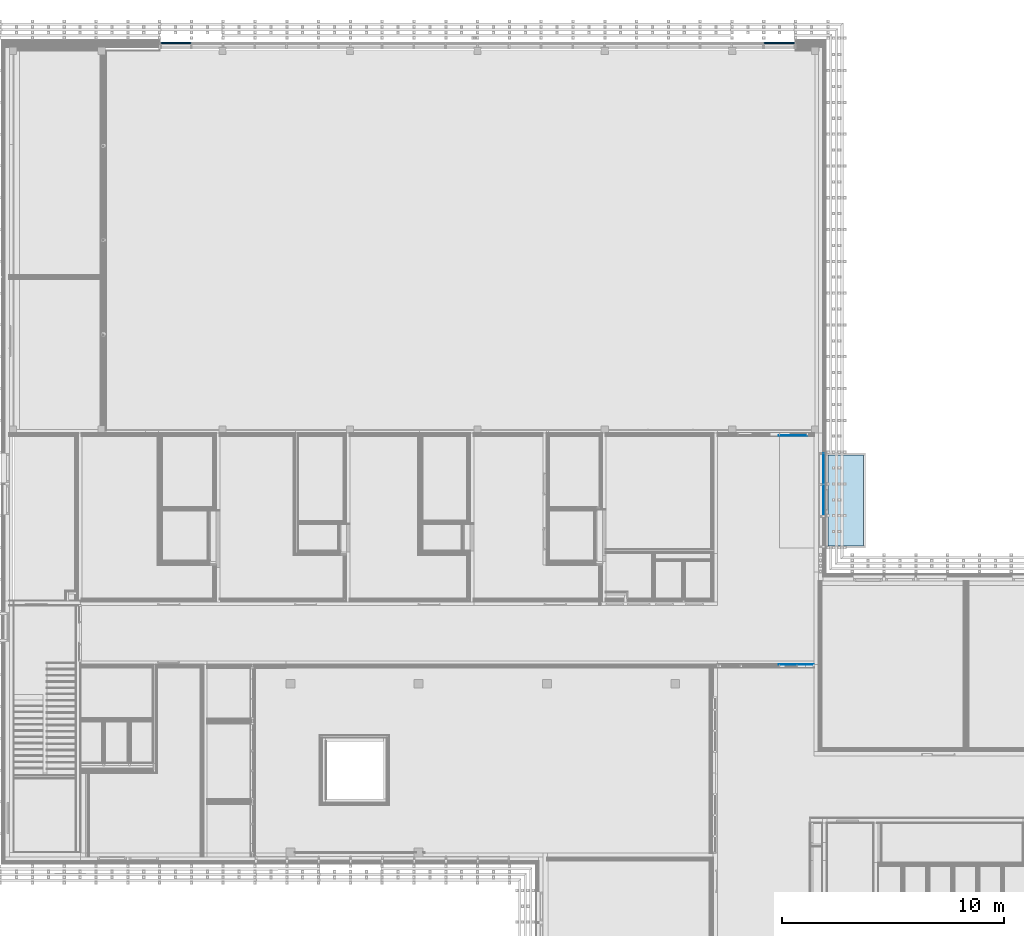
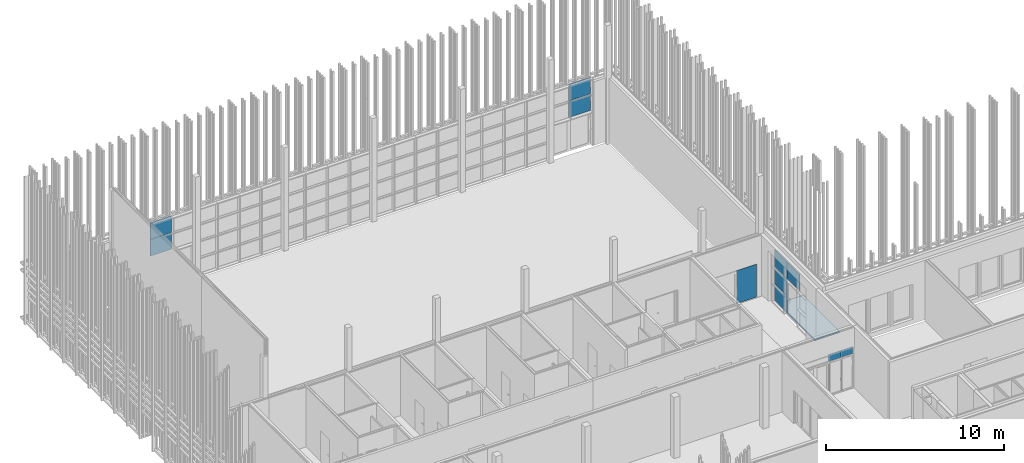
# One storey, part 108 of 260: 11 plates, 1 slab, 4 elements without a shape of their own.
"""IFC2X3 building model written with IfcOpenShell, lengths in millimetres."""

import ifcopenshell
import ifcopenshell.guid

model = None  # the IFC model being written
_history = None  # IfcOwnerHistory: only IFC2X3 demands one
_inside = {}  # id of a spatial element -> (the spatial element, [elements in it])
_under = {}  # id of a project, library or spatial element -> (it, [spatial elements below it])
_declared = {}  # id of a project -> (the project, [libraries it declares])
_typed = {}  # id of a type object -> (the type object, [elements of that type])
_made_of = {}  # id of a material, layer set ... -> (it, [elements and type objects made of it])


def new_model(schema):
    """Start an empty IFC model of exactly this schema.

    Asked for "IFC4X3", IfcOpenShell would pick the latest addendum, in which some entities
    have other attributes; the version numbers below select the first issue.
    IFC2X3 requires an IfcOwnerHistory on every rooted entity: one is made here for all.
    """
    global model, _history
    if schema == "IFC4X3":
        model = ifcopenshell.file(schema_version=(4, 3, 0, 0))
    else:
        model = ifcopenshell.file(schema=schema)
    _inside.clear()
    _under.clear()
    _declared.clear()
    _typed.clear()
    _made_of.clear()
    _history = None
    if model.schema == "IFC2X3":
        org = make("IfcOrganization", Name="unknown")
        user = make(
            "IfcPersonAndOrganization",
            ThePerson=make("IfcPerson", FamilyName="unknown"),
            TheOrganization=org,
        )
        app = make(
            "IfcApplication",
            ApplicationDeveloper=org,
            Version="unknown",
            ApplicationFullName="unknown",
            ApplicationIdentifier="unknown",
        )
        _history = make(
            "IfcOwnerHistory",
            OwningUser=user,
            OwningApplication=app,
            ChangeAction="ADDED",
            CreationDate=0,
        )
    return model


def make(cls, **values):
    """One entity of the class cls with the attributes given. An attribute that is None is left unset."""
    return model.create_entity(
        cls, **{name: value for name, value in values.items() if value is not None}
    )


def entity(cls, *values):
    """Any entity or typed value of the class cls, its attributes in the order of the schema. None: left unset."""
    e = model.create_entity(cls)
    for i, value in enumerate(values):
        if value is not None:
            e[i] = value
    return e


def rooted(cls, **values):
    """An entity with a GlobalId (a new one), such as an element, a storey or a relation."""
    return make(cls, GlobalId=ifcopenshell.guid.new(), OwnerHistory=_history, **values)


def si_unit(unit_type, name, prefix=None):
    """IfcSIUnit, for example si_unit("LENGTHUNIT", "METRE", prefix="MILLI")."""
    return make("IfcSIUnit", UnitType=unit_type, Prefix=prefix, Name=name)


def converted_unit(unit_type, name, factor, base, dimensions=None, offset=None):
    """IfcConversionBasedUnit, such as the inch: factor (a typed value) times the base unit."""
    return make(
        "IfcConversionBasedUnit"
        if offset is None
        else "IfcConversionBasedUnitWithOffset",
        ConversionOffset=offset,
        Dimensions=None
        if dimensions is None
        else entity("IfcDimensionalExponents", *dimensions),
        UnitType=unit_type,
        Name=name,
        ConversionFactor=make(
            "IfcMeasureWithUnit", ValueComponent=factor, UnitComponent=base
        ),
    )


def derived_unit(unit_type, elements):
    """IfcDerivedUnit: a product of units, each with its exponent."""
    return make(
        "IfcDerivedUnit",
        Elements=[
            make("IfcDerivedUnitElement", Unit=unit, Exponent=power)
            for unit, power in elements
        ],
        UnitType=unit_type,
    )


def money_unit(currency):
    """IfcMonetaryUnit."""
    return make("IfcMonetaryUnit", Currency=currency)


def assignment(units):
    """IfcUnitAssignment: the units of a project."""
    return None if units is None else make("IfcUnitAssignment", Units=units)


def point(xyz):
    """IfcCartesianPoint."""
    return None if xyz is None else make("IfcCartesianPoint", Coordinates=xyz)


def direction(xyz):
    """IfcDirection."""
    return None if xyz is None else make("IfcDirection", DirectionRatios=xyz)


def frame(location, z_axis=None, x_axis=None):
    """IfcAxis2Placement3D, a coordinate frame: its origin and axes. An axis left out is left unset."""
    return make(
        "IfcAxis2Placement3D",
        Location=point(location),
        Axis=direction(z_axis),
        RefDirection=direction(x_axis),
    )


def origin_with_axes():
    """The frame at (0, 0, 0) with the z axis (0, 0, 1) and the x axis (1, 0, 0) written out."""
    return frame((0.0, 0.0, 0.0), z_axis=(0.0, 0.0, 1.0), x_axis=(1.0, 0.0, 0.0))


def place(relative_to, where):
    """IfcLocalPlacement: puts the frame where relative to a parent placement (None: the world)."""
    return make(
        "IfcLocalPlacement", PlacementRelTo=relative_to, RelativePlacement=where
    )


def context(
    kind, dimensions, precision=None, world=None, true_north=None, identifier=None
):
    """IfcGeometricRepresentationContext, for example the 3D "Model" context."""
    return make(
        "IfcGeometricRepresentationContext",
        ContextIdentifier=identifier,
        ContextType=kind,
        CoordinateSpaceDimension=dimensions,
        Precision=precision,
        WorldCoordinateSystem=world,
        TrueNorth=true_north,
    )


def subcontext(parent, identifier, kind, view, scale=None):
    """IfcGeometricRepresentationSubContext, for example "Body" below "Model"."""
    return make(
        "IfcGeometricRepresentationSubContext",
        ContextIdentifier=identifier,
        ContextType=kind,
        ParentContext=parent,
        TargetScale=scale,
        TargetView=view,
    )


def project(units=None, contexts=None):
    """IfcProject with its units and contexts."""
    return rooted(
        "IfcProject",
        Name="project",
        RepresentationContexts=contexts,
        UnitsInContext=assignment(units),
    )


def spatial(cls, under=None, at=None, **own):
    """A site, building, storey or space (cls), placed at a placement, below another one or the project."""
    s = rooted(cls, ObjectPlacement=at, **own)
    if under is not None:
        _under.setdefault(under.id(), (under, []))[1].append(s)
    return s


def faces_of(points, faces, orient=None, outer=None):
    """IfcFace entities. A face is a list of loops; a loop is a list of indices into points, from 0.

    orient and outer hold one flag for each loop. By default every Orientation is true, the
    first loop of a face is its IfcFaceOuterBound and the others are IfcFaceBound.
    """
    made = []
    for i, loops in enumerate(faces):
        bounds = []
        for j, loop in enumerate(loops):
            is_outer = j == 0 if outer is None else outer[i][j]
            bounds.append(
                make(
                    "IfcFaceOuterBound" if is_outer else "IfcFaceBound",
                    Bound=make("IfcPolyLoop", Polygon=[points[k] for k in loop]),
                    Orientation=True if orient is None else orient[i][j],
                )
            )
        made.append(make("IfcFace", Bounds=bounds))
    return made


def faceted_brep(points, faces, orient=None, outer=None, voids=None):
    """IfcFacetedBrep: a solid bounded by flat faces; with voids (closed shells), ...WithVoids."""
    shared = [point(p) for p in points]
    hull = make("IfcClosedShell", CfsFaces=faces_of(shared, faces, orient, outer))
    if voids is None:
        return make("IfcFacetedBrep", Outer=hull)
    return make(
        "IfcFacetedBrepWithVoids",
        Outer=hull,
        Voids=[
            make(cls, CfsFaces=faces_of(shared, fs, o, b)) for cls, fs, o, b in voids
        ],
    )


def shape(context_of_items, identifier, shape_type, items):
    """IfcShapeRepresentation: the items that make up one representation, for example the "Body"."""
    return make(
        "IfcShapeRepresentation",
        ContextOfItems=context_of_items,
        RepresentationIdentifier=identifier,
        RepresentationType=shape_type,
        Items=items,
    )


def material(Name=None, Category=None):
    """IfcMaterial."""
    return make("IfcMaterial", Name=Name, Category=Category)


def made_of(thing, what):
    """Note that an element or type object is made of a material, layer set ...; save() writes the relation."""
    if what is not None:
        _made_of.setdefault(what.id(), (what, []))[1].append(thing)
    return thing


def type_object(cls, material=None, **own):
    """A type object (cls), such as IfcWallType, which elements share."""
    return made_of(rooted(cls, **own), material)


def element(
    cls,
    number,
    at=None,
    inside=None,
    cuts=None,
    type_object=None,
    material=None,
    context=None,
    identifier="Body",
    shape_type=None,
    held_by="IfcProductDefinitionShape",
    body=None,
    shapes=None,
    **own,
):
    """One element of the class cls, such as IfcWall. Its Tag is "e" and its number.

    at: its placement. inside: the storey or other place that contains it. cuts: it is an
    opening in that element (IfcRelVoidsElement). A single representation is given by context,
    identifier, shape_type and body (its items); several are given by shapes. held_by: the class
    of the entity that holds the representations. save() writes the other relations.
    """
    e = rooted(cls, Tag="e%d" % number, ObjectPlacement=at, **own)
    if body is not None:
        shapes = [shape(context, identifier, shape_type, body)]
    if shapes is not None:
        e.Representation = make(held_by, Representations=shapes)
    if inside is not None:
        _inside.setdefault(inside.id(), (inside, []))[1].append(e)
    if cuts is not None:
        rooted(
            "IfcRelVoidsElement", RelatingBuildingElement=cuts, RelatedOpeningElement=e
        )
    if type_object is not None:
        _typed.setdefault(type_object.id(), (type_object, []))[1].append(e)
    return made_of(e, material)


def aggregate(whole, parts):
    """IfcRelAggregates: a whole, such as a stair, and the parts it consists of."""
    return rooted("IfcRelAggregates", RelatingObject=whole, RelatedObjects=parts)


def save(model, path):
    """Write the relations noted so far, then the file.

    IfcRelAggregates (storeys below a building ...), IfcRelContainedInSpatialStructure (elements
    in a storey), IfcRelDefinesByType, IfcRelAssociatesMaterial and IfcRelDeclares: one each for
    every whole, place, type object, material and project.
    """
    for whole, parts in _under.values():
        aggregate(whole, parts)
    for where, things in _inside.values():
        rooted(
            "IfcRelContainedInSpatialStructure",
            RelatedElements=things,
            RelatingStructure=where,
        )
    for kind, things in _typed.values():
        rooted("IfcRelDefinesByType", RelatedObjects=things, RelatingType=kind)
    for what, things in _made_of.values():
        rooted("IfcRelAssociatesMaterial", RelatedObjects=things, RelatingMaterial=what)
    for by, libraries in _declared.values():
        rooted("IfcRelDeclares", RelatingContext=by, RelatedDefinitions=libraries)
    model.write(path)


model = new_model("IFC2X3")

# Units and contexts
model_context = context("Model", 3, precision=0.01, world=origin_with_axes(), true_north=direction((0.0, 1.0)))
body_context = subcontext(model_context, "Body", "Model", "MODEL_VIEW")
ifc_project = project(units=[si_unit("LENGTHUNIT", "METRE", prefix="MILLI"), si_unit("AREAUNIT", "SQUARE_METRE"), si_unit("VOLUMEUNIT", "CUBIC_METRE"), converted_unit("PLANEANGLEUNIT", "DEGREE", entity("IfcPlaneAngleMeasure", 0.0174532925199), si_unit("PLANEANGLEUNIT", "RADIAN"), dimensions=[0, 0, 0, 0, 0, 0, 0]), money_unit("EUR"), converted_unit("TIMEUNIT", "Year", entity("IfcTimeMeasure", 31556926.0), si_unit("TIMEUNIT", "SECOND"), dimensions=[0, 0, 1, 0, 0, 0, 0]), si_unit("MASSUNIT", "GRAM", prefix="KILO"), si_unit("THERMODYNAMICTEMPERATUREUNIT", "DEGREE_CELSIUS"), si_unit("LUMINOUSINTENSITYUNIT", "LUMEN"), si_unit("ENERGYUNIT", "JOULE", prefix="MEGA"), derived_unit("THERMALCONDUCTANCEUNIT", [(si_unit("POWERUNIT", "WATT"), 1), (si_unit("LENGTHUNIT", "METRE"), -1), (si_unit("THERMODYNAMICTEMPERATUREUNIT", "KELVIN"), -1)]), derived_unit("SPECIFICHEATCAPACITYUNIT", [(si_unit("ENERGYUNIT", "JOULE"), 1), (si_unit("MASSUNIT", "GRAM", prefix="KILO"), -1), (si_unit("THERMODYNAMICTEMPERATUREUNIT", "KELVIN"), -1)]), derived_unit("MASSDENSITYUNIT", [(si_unit("MASSUNIT", "GRAM", prefix="KILO"), 1), (si_unit("VOLUMEUNIT", "CUBIC_METRE"), -1)])], contexts=[model_context])

# Site, building, storey
site_placement = place(None, origin_with_axes())
site = spatial("IfcSite", under=ifc_project, at=site_placement, Name="Kolde pst 67a", CompositionType="ELEMENT")
building_placement = place(site_placement, origin_with_axes())
building = spatial("IfcBuilding", under=site, at=building_placement, Name="Riigigümnaasium", CompositionType="ELEMENT")
storey_placement = place(building_placement, origin_with_axes())
storey = spatial("IfcBuildingStorey", under=building, at=storey_placement, Name="1. korrus", CompositionType="ELEMENT", Elevation=0.0)

# Curtain wall, plates
curtain_wall_type = type_object("IfcCurtainWallType", Name="Curtain Wall Type", PredefinedType="NOTDEFINED")
curtain_wall_1_placement = place(storey_placement, frame((10366.0828546, 84639.9999608, 0.0), z_axis=(0.0, 0.0, 1.0), x_axis=(1.0, 0.0, 0.0)))
curtain_wall_1 = element("IfcCurtainWall", 1, at=curtain_wall_1_placement, inside=storey, type_object=curtain_wall_type, Name="KLAASFASSAAD")
ifc_material_1 = material(Name="_KLAAS - kirgas")
plate_type_1 = type_object("IfcPlateType", Name="Turvaklaas 1404 x 1140 x 48", PredefinedType="CURTAIN_PANEL")
plate_1_placement = place(curtain_wall_1_placement, frame((24551.3058205, 0.0, 2875.0), z_axis=(0.0, 0.0, 1.0), x_axis=(-1.0, 0.0, 0.0)))
plate_1 = element("IfcPlate", 2, at=plate_1_placement, type_object=plate_type_1, material=ifc_material_1, Name="Panel-Turvaklaas-047", ObjectType="CURTAIN_PANEL", context=body_context, shape_type="Brep", body=[
    faceted_brep([(-452.611637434, 24.0, 570.00001026), (-452.611637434, -24.0, 570.00001026), (951.30581993, -24.0, 570.00001026), (951.30581993, 24.0, 570.00001026), (-452.611637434, 24.0, -569.999999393), (-452.611637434, -24.0, -569.999999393), (951.30581993, -24.0, -569.999999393), (951.30581993, 24.0, -569.999999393)], [[[0, 1, 2, 3]], [[4, 5, 1, 0]], [[1, 5, 6, 2]], [[3, 2, 6, 7]], [[0, 3, 7, 4]], [[7, 6, 5, 4]]]),
])
plate_type_2 = type_object("IfcPlateType", Name="Turvaklaas 1374 x 1140 x 48", PredefinedType="CURTAIN_PANEL")
plate_2_placement = place(curtain_wall_1_placement, frame((-2849.29129151, 0.0, 2875.0), z_axis=(0.0, 0.0, 1.0), x_axis=(-1.0, 0.0, 0.0)))
plate_2 = element("IfcPlate", 3, at=plate_2_placement, type_object=plate_type_2, material=ifc_material_1, Name="Panel-Turvaklaas-151", ObjectType="CURTAIN_PANEL", context=body_context, shape_type="Brep", body=[
    faceted_brep([(-699.291290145, 24.0, 569.999997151), (-699.291290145, -24.0, 569.999997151), (674.291283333, -24.0, 569.999997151), (674.291283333, 24.0, 569.999997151), (-699.291290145, 24.0, -569.999998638), (-699.291290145, -24.0, -569.999998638), (674.291283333, -24.0, -569.999998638), (674.291283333, 24.0, -569.999998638)], [[[0, 1, 2, 3]], [[4, 5, 1, 0]], [[1, 5, 6, 2]], [[3, 2, 6, 7]], [[0, 3, 7, 4]], [[7, 6, 5, 4]]]),
])
plate_type_3 = type_object("IfcPlateType", Name="Turvaklaas 1374 x 1115 x 48", PredefinedType="CURTAIN_PANEL")
plate_3_placement = place(curtain_wall_1_placement, frame((-2849.29129151, 0.0, 4025.0), z_axis=(0.0, 0.0, 1.0), x_axis=(-1.0, 0.0, 0.0)))
plate_3 = element("IfcPlate", 4, at=plate_3_placement, type_object=plate_type_3, material=ifc_material_1, Name="Panel-Turvaklaas-149", ObjectType="CURTAIN_PANEL", context=body_context, shape_type="Brep", body=[
    faceted_brep([(-699.291290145, 24.0, 544.999990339), (-699.291290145, -24.0, 544.999990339), (674.291283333, -24.0, 544.999990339), (674.291283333, 24.0, 544.999990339), (-699.291290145, 24.0, -569.999998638), (-699.291290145, -24.0, -569.999998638), (674.291283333, -24.0, -569.999998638), (674.291283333, 24.0, -569.999998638)], [[[0, 1, 2, 3]], [[4, 5, 1, 0]], [[1, 5, 6, 2]], [[3, 2, 6, 7]], [[0, 3, 7, 4]], [[7, 6, 5, 4]]]),
])
plate_type_4 = type_object("IfcPlateType", Name="Turvaklaas 1404 x 1115 x 48", PredefinedType="CURTAIN_PANEL")
plate_4_placement = place(curtain_wall_1_placement, frame((24551.3058205, 0.0, 4025.0), z_axis=(0.0, 0.0, 1.0), x_axis=(-1.0, 0.0, 0.0)))
plate_4 = element("IfcPlate", 5, at=plate_4_placement, type_object=plate_type_4, material=ifc_material_1, Name="Panel-Turvaklaas-088", ObjectType="CURTAIN_PANEL", context=body_context, shape_type="Brep", body=[
    faceted_brep([(-452.611637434, 24.0, 545.000007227), (-452.611637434, -24.0, 545.000007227), (951.30581993, -24.0, 545.000007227), (951.30581993, 24.0, 545.000007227), (-452.611637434, 24.0, -569.999999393), (-452.611637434, -24.0, -569.999999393), (951.30581993, -24.0, -569.999999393), (951.30581993, 24.0, -569.999999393)], [[[0, 1, 2, 3]], [[4, 5, 1, 0]], [[1, 5, 6, 2]], [[3, 2, 6, 7]], [[0, 3, 7, 4]], [[7, 6, 5, 4]]]),
])
aggregate(curtain_wall_1, [plate_1, plate_2, plate_3, plate_4])

curtain_wall_2_placement = place(storey_placement, frame((36659.99923, 65497.2568144, -5.3341346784e-05), z_axis=(0.0, 0.0, 1.0), x_axis=(1.0, 0.0, 0.0)))
curtain_wall_2 = element("IfcCurtainWall", 6, at=curtain_wall_2_placement, inside=storey, type_object=curtain_wall_type, Name="KLAASFASSAAD")
plate_type_5 = type_object("IfcPlateType", Name="Main Panel 1385 x 1145 x 33", PredefinedType="NOTDEFINED")
plate_5_placement = place(curtain_wall_2_placement, frame((0.0, 0.0, 590.000026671), z_axis=(0.0, 0.0, 1.0), x_axis=(0.0, 1.0, 0.0)))
plate_5 = element("IfcPlate", 7, at=plate_5_placement, type_object=plate_type_5, material=ifc_material_1, Name="RF PANEEL PEAMINE-011", context=body_context, shape_type="Brep", body=[
    faceted_brep([(-705.223401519, 16.5, 585.000028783), (-705.223401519, -16.5, 585.000028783), (680.223387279, -16.5, 585.000028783), (680.223387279, 16.5, 585.000028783), (-705.223401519, 16.5, -560.000018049), (-705.223401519, -16.5, -560.000018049), (680.223387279, -16.5, -560.000018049), (680.223387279, 16.5, -560.000018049)], [[[0, 1, 2, 3]], [[4, 5, 1, 0]], [[1, 5, 6, 2]], [[3, 2, 6, 7]], [[0, 3, 7, 4]], [[7, 6, 5, 4]]]),
])
plate_6_placement = place(curtain_wall_2_placement, frame((0.0, 0.0, 2950.00014469), z_axis=(0.0, 0.0, 1.0), x_axis=(0.0, 1.0, 0.0)))
plate_6 = element("IfcPlate", 8, at=plate_6_placement, type_object=plate_type_5, material=ifc_material_1, Name="RF PANEEL PEAMINE-019", context=body_context, shape_type="Brep", body=[
    faceted_brep([(-705.223401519, 16.5, 560.000098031), (-705.223401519, -16.5, 560.000098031), (680.223387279, -16.5, 560.000098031), (680.223387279, 16.5, 560.000098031), (-705.223401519, 16.5, -585.000096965), (-705.223401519, -16.5, -585.000096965), (680.223387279, -16.5, -585.000096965), (680.223387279, 16.5, -585.000096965)], [[[0, 1, 2, 3]], [[4, 5, 1, 0]], [[1, 5, 6, 2]], [[3, 2, 6, 7]], [[0, 3, 7, 4]], [[7, 6, 5, 4]]]),
])
plate_type_6 = type_object("IfcPlateType", Name="Main Panel 1385 x 1170 x 33", PredefinedType="NOTDEFINED")
plate_7_placement = place(curtain_wall_2_placement, frame((0.0, 0.0, 1770.00005334), z_axis=(0.0, 0.0, 1.0), x_axis=(0.0, 1.0, 0.0)))
plate_7 = element("IfcPlate", 9, at=plate_7_placement, type_object=plate_type_6, material=ifc_material_1, Name="RF PANEEL PEAMINE-015", context=body_context, shape_type="Brep", body=[
    faceted_brep([(-705.223401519, 16.5, 584.999991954), (-705.223401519, -16.5, 584.999991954), (680.223387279, -16.5, 584.999991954), (680.223387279, 16.5, 584.999991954), (-705.223401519, 16.5, -585.000005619), (-705.223401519, -16.5, -585.000005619), (680.223387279, -16.5, -585.000005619), (680.223387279, 16.5, -585.000005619)], [[[0, 1, 2, 3]], [[4, 5, 1, 0]], [[1, 5, 6, 2]], [[3, 2, 6, 7]], [[0, 3, 7, 4]], [[7, 6, 5, 4]]]),
])
plate_type_7 = type_object("IfcPlateType", Name="Main Panel 1420 x 1145 x 33", PredefinedType="NOTDEFINED")
plate_8_placement = place(curtain_wall_2_placement, frame((0.0, -1425.2233959, 2950.00014469), z_axis=(0.0, 0.0, 1.0), x_axis=(0.0, 1.0, 0.0)))
plate_8 = element("IfcPlate", 10, at=plate_8_placement, type_object=plate_type_7, material=ifc_material_1, Name="RF PANEEL PEAMINE-020", context=body_context, shape_type="Brep", body=[
    faceted_brep([(-710.000003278, 16.5, 560.000092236), (-710.000003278, -16.5, 560.000092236), (710.000003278, -16.5, 560.000092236), (710.000003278, 16.5, 560.000092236), (-710.000003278, 16.5, -585.000094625), (-710.000003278, -16.5, -585.000094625), (710.000003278, -16.5, -585.000094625), (710.000003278, 16.5, -585.000094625)], [[[0, 1, 2, 3]], [[4, 5, 1, 0]], [[1, 5, 6, 2]], [[3, 2, 6, 7]], [[0, 3, 7, 4]], [[7, 6, 5, 4]]]),
])
aggregate(curtain_wall_2, [plate_5, plate_7, plate_8, plate_6])

# Curtain wall, plate
curtain_wall_3_placement = place(storey_placement, frame((33792.224013, 66989.9967931, 0.0), z_axis=(0.0, 0.0, 1.0), x_axis=(1.0, 0.0, 0.0)))
curtain_wall_3 = element("IfcCurtainWall", 11, at=curtain_wall_3_placement, inside=storey, type_object=curtain_wall_type, Name="KLAASSEIN")
ifc_material_2 = material(Name="_GENEERILINE MATERJAL KLAAS")
plate_type_8 = type_object("IfcPlateType", Name="Distinct Panel 20 x 2300 x 20", PredefinedType="NOTDEFINED")
plate_9_placement = place(curtain_wall_3_placement, frame((1458.24143469, 0.0, 1150.0), z_axis=(0.0, 0.0, 1.0), x_axis=(-1.0, 0.0, 0.0)))
plate_9 = element("IfcPlate", 12, at=plate_9_placement, type_object=plate_type_8, material=ifc_material_2, Name="RF PANEEL ERI-045", context=body_context, shape_type="Brep", body=[
    faceted_brep([(581.406092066, -10.0, 1150.0), (601.406099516, -10.0, 1150.0), (601.406099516, 10.0, 1150.0), (581.406092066, 10.0, 1150.0), (581.406092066, -10.0, 1129.99999255), (121.796937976, -10.0, 1129.99999255), (-683.203062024, -10.0, 1129.99999255), (-683.203062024, -10.0, -1129.99999255), (121.796937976, -10.0, -1129.99999255), (581.406092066, -10.0, -1129.99999255), (581.406092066, -10.0, -1150.0), (601.406099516, -10.0, -1150.0), (601.406099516, 10.0, -1150.0), (581.406092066, 10.0, -1150.0), (581.406092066, 10.0, -1129.99999255), (121.796937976, 10.0, -1129.99999255), (-683.203062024, 10.0, -1129.99999255), (-683.203062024, 10.0, 1129.99999255), (121.796937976, 10.0, 1129.99999255), (581.406092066, 10.0, 1129.99999255)], [[[0, 1, 2, 3]], [[0, 4, 5, 6, 7, 8, 9, 10, 11, 1]], [[1, 11, 12, 2]], [[3, 2, 12, 13, 14, 15, 16, 17, 18, 19]], [[4, 0, 3, 19]], [[5, 4, 19, 18]], [[6, 5, 18, 17]], [[7, 6, 17, 16]], [[8, 7, 16, 15]], [[9, 8, 15, 14]], [[10, 9, 14, 13]], [[11, 10, 13, 12]]]),
])
aggregate(curtain_wall_3, [plate_9])

# Curtain wall, plates
curtain_wall_4_placement = place(storey_placement, frame((32274.8343542, 56679.9979478, 0.0), z_axis=(0.0, 0.0, 1.0), x_axis=(1.0, 0.0, 0.0)))
curtain_wall_4 = element("IfcCurtainWall", 13, at=curtain_wall_4_placement, inside=storey, type_object=curtain_wall_type, Name="KLAASSEIN")
plate_type_9 = type_object("IfcPlateType", Name="Distinct Panel 20 x 20 x 20", PredefinedType="NOTDEFINED")
plate_10_placement = place(curtain_wall_4_placement, frame((2736.36535005, 0.0, 2550.00004172), z_axis=(0.0, 0.0, 1.0), x_axis=(-1.0, 0.0, 0.0)))
plate_10 = element("IfcPlate", 14, at=plate_10_placement, type_object=plate_type_9, material=ifc_material_2, Name="RF PANEEL ERI-051", context=body_context, shape_type="Brep", body=[
    faceted_brep([(-480.840375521, 10.0, 250.000036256), (-480.840375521, -10.0, 250.000036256), (-460.840372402, -10.0, 250.000036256), (-460.840372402, 10.0, 250.000036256), (-480.840375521, 10.0, -250.000041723), (-480.840375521, -10.0, -250.000041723), (-460.840372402, -10.0, -250.000041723), (-460.840372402, -10.0, -245.000037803), (118.700020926, -10.0, -245.000037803), (342.140347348, -10.0, -245.000037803), (342.140347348, -10.0, -250.000041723), (362.140350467, -10.0, -250.000041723), (362.140350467, -10.0, 250.000036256), (342.140347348, -10.0, 250.000036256), (342.140347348, -10.0, 230.000033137), (118.700020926, -10.0, 230.000033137), (-460.840372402, -10.0, 230.000033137), (-460.840372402, 10.0, 230.000033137), (118.700020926, 10.0, 230.000033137), (342.140347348, 10.0, 230.000033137), (342.140347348, 10.0, 250.000036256), (362.140350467, 10.0, 250.000036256), (362.140350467, 10.0, -250.000041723), (342.140347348, 10.0, -250.000041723), (342.140347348, 10.0, -245.000037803), (118.700020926, 10.0, -245.000037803), (-460.840372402, 10.0, -245.000037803), (-460.840372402, 10.0, -250.000041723)], [[[0, 1, 2, 3]], [[4, 5, 1, 0]], [[1, 5, 6, 7, 8, 9, 10, 11, 12, 13, 14, 15, 16, 2]], [[3, 2, 16, 17]], [[0, 3, 17, 18, 19, 20, 21, 22, 23, 24, 25, 26, 27, 4]], [[27, 6, 5, 4]], [[26, 7, 6, 27]], [[25, 8, 7, 26]], [[24, 9, 8, 25]], [[23, 10, 9, 24]], [[22, 11, 10, 23]], [[21, 12, 11, 22]], [[20, 13, 12, 21]], [[19, 14, 13, 20]], [[18, 15, 14, 19]], [[17, 16, 15, 18]]]),
])
plate_type_10 = type_object("IfcPlateType", Name="Distinct Panel 20 x 500 x 20", PredefinedType="NOTDEFINED")
plate_11_placement = place(curtain_wall_4_placement, frame((3576.6786376, 0.0, 2550.00004196), z_axis=(0.0, 0.0, 1.0), x_axis=(-1.0, 0.0, 0.0)))
plate_11 = element("IfcPlate", 15, at=plate_11_placement, type_object=plate_type_10, material=ifc_material_2, Name="RF PANEEL ERI-047", context=body_context, shape_type="Brep", body=[
    faceted_brep([(379.47291234, 10.0, 250.000042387), (379.47291234, -10.0, 250.000042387), (399.47291251, -10.0, 250.000042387), (399.47291251, 10.0, 250.000042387), (379.47291234, 10.0, 230.000042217), (379.47291234, -10.0, 230.000042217), (9.0133156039, -10.0, 230.000042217), (-368.486226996, -10.0, 230.000042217), (-368.486226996, -10.0, -245.000047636), (9.0133156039, -10.0, -245.000047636), (379.47291234, -10.0, -245.000047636), (379.47291234, -10.0, -250.000041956), (399.47291251, -10.0, -250.000041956), (399.47291251, 10.0, -250.000041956), (379.47291234, 10.0, -250.000041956), (379.47291234, 10.0, -245.000047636), (9.0133156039, 10.0, -245.000047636), (-368.486226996, 10.0, -245.000047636), (-368.486226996, 10.0, 230.000042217), (9.0133156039, 10.0, 230.000042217)], [[[0, 1, 2, 3]], [[4, 5, 1, 0]], [[1, 5, 6, 7, 8, 9, 10, 11, 12, 2]], [[3, 2, 12, 13]], [[0, 3, 13, 14, 15, 16, 17, 18, 19, 4]], [[19, 6, 5, 4]], [[18, 7, 6, 19]], [[17, 8, 7, 18]], [[16, 9, 8, 17]], [[15, 10, 9, 16]], [[14, 11, 10, 15]], [[13, 12, 11, 14]]]),
])
aggregate(curtain_wall_4, [plate_11, plate_10])

# Slab
ifc_material_3 = material(Name="_KANDETARIND - monoliitne raudbetoon vastavalt EK osale")
slab_type = type_object("IfcSlabType", Name="_KANDETARIND - monoliitne raudbetoon vastavalt EK osale 100", PredefinedType="NOTDEFINED")
slab_placement = place(storey_placement, frame((36851.9997676, 66107.4807328, -202.0), z_axis=(0.0, 0.0, 1.0), x_axis=(1.0, 0.0, 0.0)))
element("IfcSlab", 16, at=slab_placement, inside=storey, type_object=slab_type, material=ifc_material_3, Name="Porivann, monoliitne raudbetoon vastavalt EK osale", PredefinedType="NOTDEFINED", context=body_context, shape_type="Brep", body=[
    faceted_brep([(0.0, 0.0, 0.0), (0.0, 0.0, -100.0), (0.0219849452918, -4089.60655813, -100.0), (0.0219849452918, -4089.60655813, 0.0), (1599.99999995, 0.00860129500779, 0.0), (1599.99999995, 0.00860129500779, -100.0), (1600.0219849, -4089.59795683, -100.0), (1600.0219849, -4089.59795683, 0.0)], [[[0, 1, 2, 3]], [[4, 5, 1, 0]], [[2, 1, 5, 6]], [[3, 2, 6, 7]], [[4, 0, 3, 7]], [[7, 6, 5, 4]]]),
])

save(model, "model.ifc")
